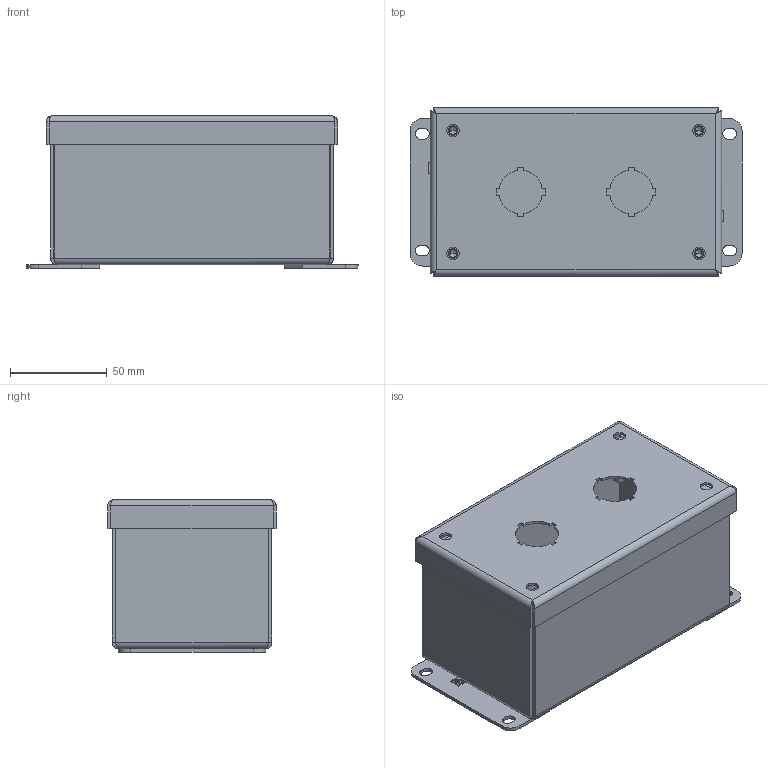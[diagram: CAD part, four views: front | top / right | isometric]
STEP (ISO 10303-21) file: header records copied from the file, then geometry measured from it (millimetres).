
FILE_DESCRIPTION (( 'STEP AP203' ), '1' );
FILE_NAME ('59400.step', '2013-06-11T05:33:12', ( '' ), ( '' ), 'SwSTEP 2.0', 'SolidWorks 2010', '' );
FILE_SCHEMA (( 'CONFIG_CONTROL_DESIGN' ));
Length unit declared in the file: inch
Products named in the file (9): 59400; 58340035; 58302055; 58201018; 58110002; 31194002_pre-weld; 89082256; 59240010; 99412037_Config-Drawing
Assembly tree (12 placements, depth 3):
  59400
    58340035
      58201018  x2
      58302055
      58110002  x4
      31194002_pre-weld
    89082256
      59240010
      99412037_Config-Drawing
Bounding box: 171.45 x 86.87 x 78.77 mm (x, y, z)
Volume: 112176.9 mm3; surface area: 141362.7 mm2
Topology: 10 solids, 10 shells, 419 faces, 1032 edges, 645 vertices
Faces by surface type: plane 219, cylinder 94, bspline 82, cone 14, torus 10
Entity records: 12512 total; most frequent: CARTESIAN_POINT 4637, ORIENTED_EDGE 1468, DIRECTION 1262, EDGE_CURVE 734, VECTOR 498, LINE 498, VERTEX_POINT 456, AXIS2_PLACEMENT_3D 382
